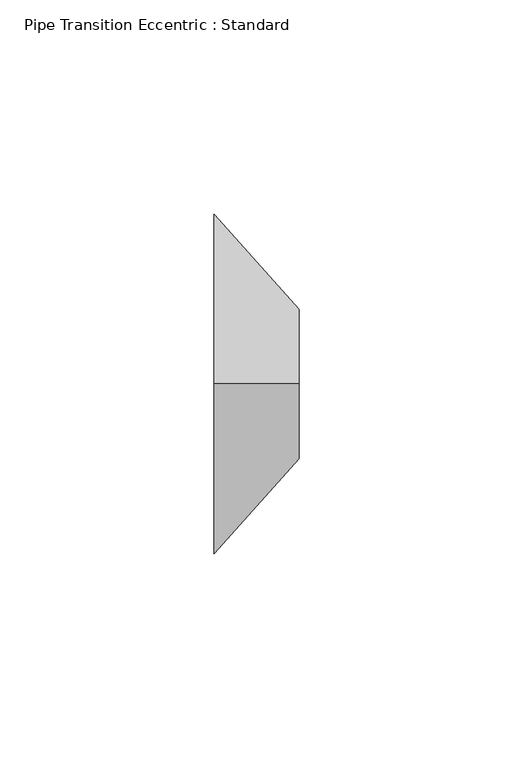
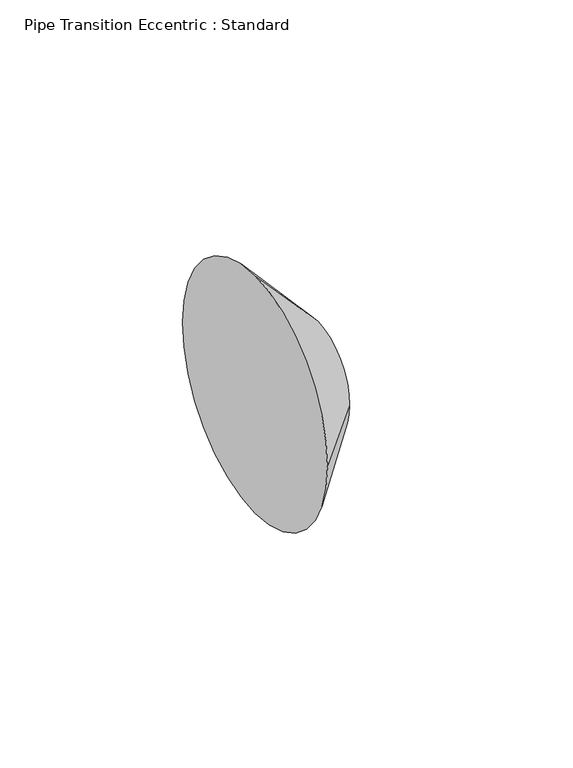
"""IFC4 building model written with IfcOpenShell, lengths in millimetres: pipe fitting geometry, Pipe Transition Eccentric : Standard."""

from ifc_helpers import new_model, si_unit, frame, origin, place, context, project, spatial, polyline, circle_curve, source, transform, mapped, element, save
from ifc_brep_helpers import plane_surface, revolved_surface, advanced_brep


def pipe_transition_eccentric_standard_66cf2955(model_context):
    return source(origin(), model_context, "Body", "AdvancedBrep", [
        advanced_brep(
        [(19.84375, 0.0, 17.4625), (19.84375, -17.4625, 0.0), (19.84375, 0.0, -17.4625), (19.84375, 17.4625, 0.0), (0.0, 0.0, 39.6875), (0.0, 39.6875, 0.0), (0.0, 0.0, -39.6875), (0.0, -39.6875, 0.0)],
        [
            (0, 1, circle_curve(frame((19.84375, 0.0, 0.0), z_axis=(1.0, 0.0, 0.0), x_axis=(0.0, 0.0, 1.0)), 17.4625)),
            (1, 2, circle_curve(frame((19.84375, 0.0, 0.0), z_axis=(1.0, 0.0, 0.0), x_axis=(0.0, -1.0, 0.0)), 17.4625)),
            (2, 3, circle_curve(frame((19.84375, 0.0, 0.0), z_axis=(1.0, 0.0, 0.0), x_axis=(0.0, 0.0, -1.0)), 17.4625)),
            (3, 0, circle_curve(frame((19.84375, 0.0, 0.0), z_axis=(1.0, 0.0, 0.0), x_axis=(0.0, 1.0, 0.0)), 17.4625)),
            (4, 5, circle_curve(frame((0.0, 0.0, 0.0), z_axis=(-1.0, 0.0, 0.0), x_axis=(0.0, 1.0, 0.0)), 39.6875)),
            (5, 6, circle_curve(frame((0.0, 0.0, 0.0), z_axis=(-1.0, 0.0, 0.0), x_axis=(0.0, 0.0, -1.0)), 39.6875)),
            (6, 7, circle_curve(frame((0.0, 0.0, 0.0), z_axis=(-1.0, 0.0, 0.0), x_axis=(0.0, -1.0, 0.0)), 39.6875)),
            (7, 4, circle_curve(frame((0.0, 0.0, 0.0), z_axis=(-1.0, 0.0, 0.0), x_axis=(0.0, 0.0, 1.0)), 39.6875)),
            (7, 1),
            (0, 4),
            (6, 2),
            (5, 3),
        ],
        [
            plane_surface(frame((19.84375, 0.0, 0.0), z_axis=(1.0, 0.0, 0.0), x_axis=(0.0, -1.0, 0.0))),
            plane_surface(frame((0.0, 0.0, 0.0), z_axis=(-1.0, 0.0, 0.0), x_axis=(0.0, -1.0, 0.0))),
            revolved_surface(polyline([(19.84375, 0.0, 17.46250002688), (0.0, 0.0, 39.6875)]), (35.4352679, 0.0, 0.0), (-1.0, 0.0, 0.0)),
            revolved_surface(polyline([(19.84375, -17.46250002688, 0.0), (0.0, -39.6875, 0.0)]), (35.4352679, 0.0, 0.0), (-1.0, 0.0, 0.0)),
            revolved_surface(polyline([(19.84375, 0.0, -17.46250002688), (0.0, 0.0, -39.6875)]), (35.4352679, 0.0, 0.0), (-1.0, 0.0, 0.0)),
            revolved_surface(polyline([(19.84375, 17.46250002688, 0.0), (0.0, 39.6875, 0.0)]), (35.4352679, 0.0, 0.0), (-1.0, 0.0, 0.0)),
        ],
        [
            (0, [[1, 2, 3, 4]]),
            (1, [[5, 6, 7, 8]]),
            (2, [[-8, 9, -1, 10]]),
            (3, [[-7, 11, -2, -9]]),
            (4, [[-6, 12, -3, -11]]),
            (5, [[-5, -10, -4, -12]]),
        ],
    ),
        advanced_brep(
        [(19.84375, 0.0, 17.4625), (19.84375, -17.4625, 0.0), (19.84375, 0.0, -17.4625), (19.84375, 17.4625, 0.0), (0.0, 0.0, 39.6875), (0.0, 39.6875, 0.0), (0.0, 0.0, -39.6875), (0.0, -39.6875, 0.0)],
        [
            (0, 1, circle_curve(frame((19.84375, 0.0, 0.0), z_axis=(1.0, 0.0, 0.0), x_axis=(0.0, 0.0, 1.0)), 17.4625)),
            (1, 2, circle_curve(frame((19.84375, 0.0, 0.0), z_axis=(1.0, 0.0, 0.0), x_axis=(0.0, -1.0, 0.0)), 17.4625)),
            (2, 3, circle_curve(frame((19.84375, 0.0, 0.0), z_axis=(1.0, 0.0, 0.0), x_axis=(0.0, 0.0, -1.0)), 17.4625)),
            (3, 0, circle_curve(frame((19.84375, 0.0, 0.0), z_axis=(1.0, 0.0, 0.0), x_axis=(0.0, 1.0, 0.0)), 17.4625)),
            (4, 5, circle_curve(frame((0.0, 0.0, 0.0), z_axis=(-1.0, 0.0, 0.0), x_axis=(0.0, 1.0, 0.0)), 39.6875)),
            (5, 6, circle_curve(frame((0.0, 0.0, 0.0), z_axis=(-1.0, 0.0, 0.0), x_axis=(0.0, 0.0, -1.0)), 39.6875)),
            (6, 7, circle_curve(frame((0.0, 0.0, 0.0), z_axis=(-1.0, 0.0, 0.0), x_axis=(0.0, -1.0, 0.0)), 39.6875)),
            (7, 4, circle_curve(frame((0.0, 0.0, 0.0), z_axis=(-1.0, 0.0, 0.0), x_axis=(0.0, 0.0, 1.0)), 39.6875)),
            (7, 1),
            (0, 4),
            (6, 2),
            (5, 3),
        ],
        [
            plane_surface(frame((19.84375, 0.0, 0.0), z_axis=(1.0, 0.0, 0.0), x_axis=(0.0, -1.0, 0.0))),
            plane_surface(frame((0.0, 0.0, 0.0), z_axis=(-1.0, 0.0, 0.0), x_axis=(0.0, -1.0, 0.0))),
            revolved_surface(polyline([(19.84375, 0.0, 17.46250002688), (0.0, 0.0, 39.6875)]), (35.4352679, 0.0, 0.0), (-1.0, 0.0, 0.0)),
            revolved_surface(polyline([(19.84375, -17.46250002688, 0.0), (0.0, -39.6875, 0.0)]), (35.4352679, 0.0, 0.0), (-1.0, 0.0, 0.0)),
            revolved_surface(polyline([(19.84375, 0.0, -17.46250002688), (0.0, 0.0, -39.6875)]), (35.4352679, 0.0, 0.0), (-1.0, 0.0, 0.0)),
            revolved_surface(polyline([(19.84375, 17.46250002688, 0.0), (0.0, 39.6875, 0.0)]), (35.4352679, 0.0, 0.0), (-1.0, 0.0, 0.0)),
        ],
        [
            (0, [[1, 2, 3, 4]]),
            (1, [[5, 6, 7, 8]]),
            (2, [[-8, 9, -1, 10]]),
            (3, [[-7, 11, -2, -9]]),
            (4, [[-6, 12, -3, -11]]),
            (5, [[-5, -10, -4, -12]]),
        ],
    ),
    ])


if __name__ == "__main__":
    model = new_model("IFC4")
    model_context = context("Model", 3, world=origin())
    ifc_project = project(units=[si_unit("LENGTHUNIT", "METRE", prefix="MILLI")], contexts=[model_context])
    site = spatial("IfcSite", under=ifc_project)
    building = spatial("IfcBuilding", under=site)
    placement = place(None, origin())
    pipe_transition_eccentric_standard_shape = pipe_transition_eccentric_standard_66cf2955(model_context)
    element("IfcPipeFitting", 1, ObjectType="Pipe Transition Eccentric : Standard", at=placement, inside=building, context=model_context, shape_type="MappedRepresentation", body=[
        mapped(pipe_transition_eccentric_standard_shape, transform((0.0, 0.0, 0.0), x_axis=(1.0, 0.0, 0.0), y_axis=(0.0, 1.0, 0.0), z_axis=(0.0, 0.0, 1.0))),
    ])
    save(model, "model.ifc")
